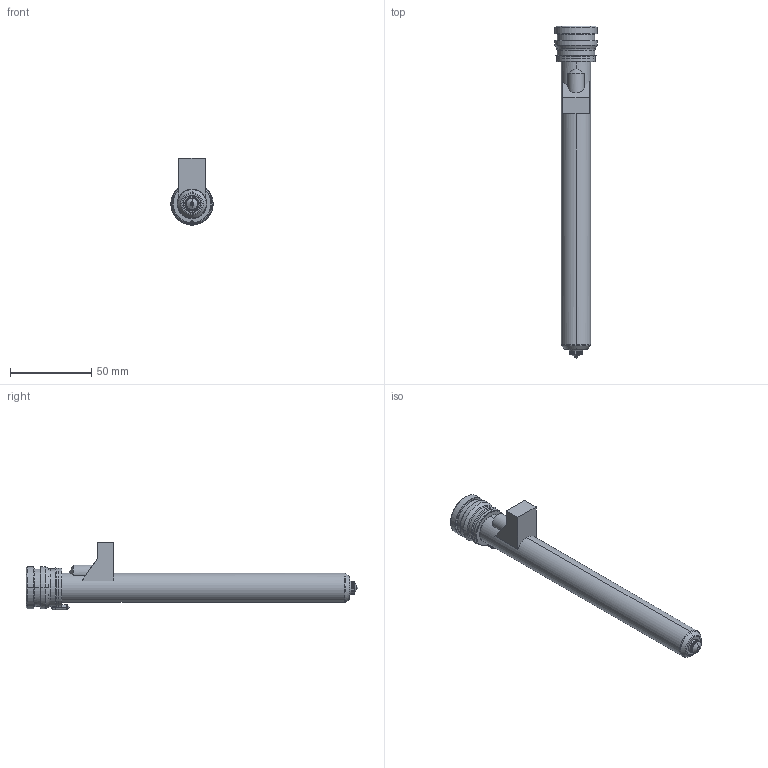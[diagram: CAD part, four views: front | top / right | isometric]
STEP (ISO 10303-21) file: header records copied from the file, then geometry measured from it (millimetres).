
FILE_DESCRIPTION((''),'2;1');
FILE_NAME('MPN-08-24-TS8-186-M','2026-02-05T13:25:22',('UPTIO'),('Thermoplay S.p.A.'),'CREO PARAMETRIC BY PTC INC, 2023494','CREO PARAMETRIC BY PTC INC, 2023494','');
FILE_SCHEMA(('CONFIG_CONTROL_DESIGN','SHAPE_APPEARANCE_LAYERS_GROUPS'));
Length unit declared in the file: millimetre
Products named in the file (1): MPN-08-24-TS8-186-M
Bounding box: 26 x 204 x 41.5 mm (x, y, z)
Volume: 38148.7 mm3; surface area: 51126.6 mm2
Topology: 2 solids, 5 shells, 532 faces, 1371 edges, 843 vertices
Faces by surface type: cylinder 172, plane 146, bspline 77, torus 62, cone 58, sphere 11, extrusion 6
Entity records: 27990 total; most frequent: CARTESIAN_POINT 12351, ORIENTED_EDGE 2720, DIRECTION 2456, EDGE_CURVE 1360, AXIS2_PLACEMENT_3D 960, VERTEX_POINT 843, EDGE_LOOP 561, VECTOR 536
